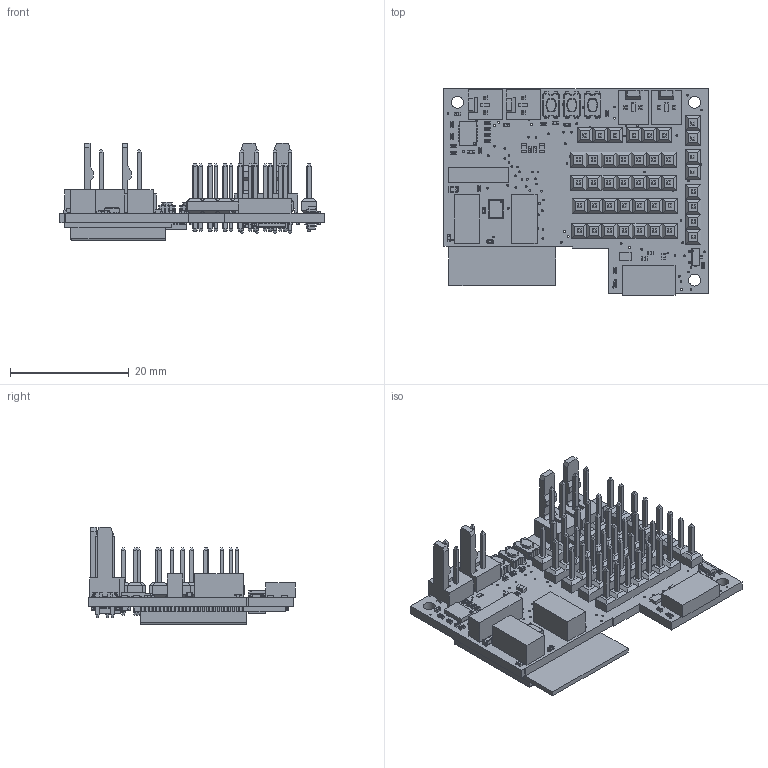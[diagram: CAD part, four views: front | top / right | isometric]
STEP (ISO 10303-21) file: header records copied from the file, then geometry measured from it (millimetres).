
FILE_DESCRIPTION(/* description */ (''),/* implementation_level */ '2;1');
FILE_NAME(/* name */ 'C:/Users/priba/Documents/Temp/Export/mrm-esp32 v1.step',/* time_stamp */ '2019-09-09T00:14:14+02:00',/* author */ (''),/* organization */ (''),/* preprocessor_version */ 'ST-DEVELOPER v18',/* originating_system */ 'Autodesk Translation Framework v8.6.0.1094',/* authorisation */ '');
FILE_SCHEMA (('AUTOMOTIVE_DESIGN { 1 0 10303 214 3 1 1 }'));
Products named in the file (38): mrm-esp32; PCB Component; Board; MOLEX_22-27-2021; INFINEON_TLE9250XLEXUMA1; JST_BM04B-GHK-TBT; TI_TPS25942LRVCT; Body; ThermalPin; PinsArrayLR; PinsArrayTB; 10 kOhm (NC); 4.7 uF 6.3 V; BOSCH_BNO055; FIDUCIAL1X2; JUMPER-SMT_2_NC_PASTE_NO-SILK; ESPRESSIF_ESP32-WROOM-32D_(8MB); 1X07; SWITCH-SPST; 1X04; CHIPLED_0402; 1.5 kOhm; 1X04_SMD_STRAIGHT_ALT; 1X03; 22 uF 10 V; SILICON_LABS_CP2102N-A02-GQFN28; HIROSE_ZX62M-B-5P(30); TI_ESD321DPYR; term1; term2; body_1; ROHM_RB160VYM-40FHTR; COMCHIP_TECHNOLOGY_SS8050-G; Body (1); PinsArrayL; FilletPinR; 1X02; TOSHIBA_SSM3J338R,LFSOT23
Assembly tree (99 placements, depth 4):
  mrm-esp32
    PCB Component
      Board
      MOLEX_22-27-2021  x4
      INFINEON_TLE9250XLEXUMA1
      JST_BM04B-GHK-TBT  x2
      TI_TPS25942LRVCT
        Body
        ThermalPin
        PinsArrayLR
        PinsArrayTB
      10 kOhm (NC)  x25
      4.7 uF 6.3 V  x14
      BOSCH_BNO055
      FIDUCIAL1X2  x6
      JUMPER-SMT_2_NC_PASTE_NO-SILK  x3
      ESPRESSIF_ESP32-WROOM-32D_(8MB)
      1X07  x4
      SWITCH-SPST  x3
      1X04
      CHIPLED_0402  x3
      1.5 kOhm  x3
      1X04_SMD_STRAIGHT_ALT
      1X03  x2
      22 uF 10 V
      SILICON_LABS_CP2102N-A02-GQFN28
      HIROSE_ZX62M-B-5P(30)
      TI_ESD321DPYR  x3
        term1
        term2
        body_1
      ROHM_RB160VYM-40FHTR
      COMCHIP_TECHNOLOGY_SS8050-G  x2
        Body (1)
        PinsArrayL
        FilletPinR
      1X02  x2
      TOSHIBA_SSM3J338R,LFSOT23
Bounding box: 44.6 x 34.88 x 16.42 mm (x, y, z)
Volume: 4794.6 mm3; surface area: 8752.9 mm2
Topology: 191 solids, 191 shells, 7640 faces, 20769 edges, 13589 vertices
Faces by surface type: plane 5105, cylinder 1799, sphere 592, bspline 108, torus 36
Full cylindrical faces by diameter (mm): 0.163 x2, 0.3 x128, 0.375 x1, 1.016 x42, 1.11 x8, 2 x3
Entity records: 98108 total; most frequent: CARTESIAN_POINT 18821, ORIENTED_EDGE 15904, DIRECTION 14961, EDGE_CURVE 7952, LINE 6699, VECTOR 6699, VERTEX_POINT 5129, AXIS2_PLACEMENT_3D 4131
